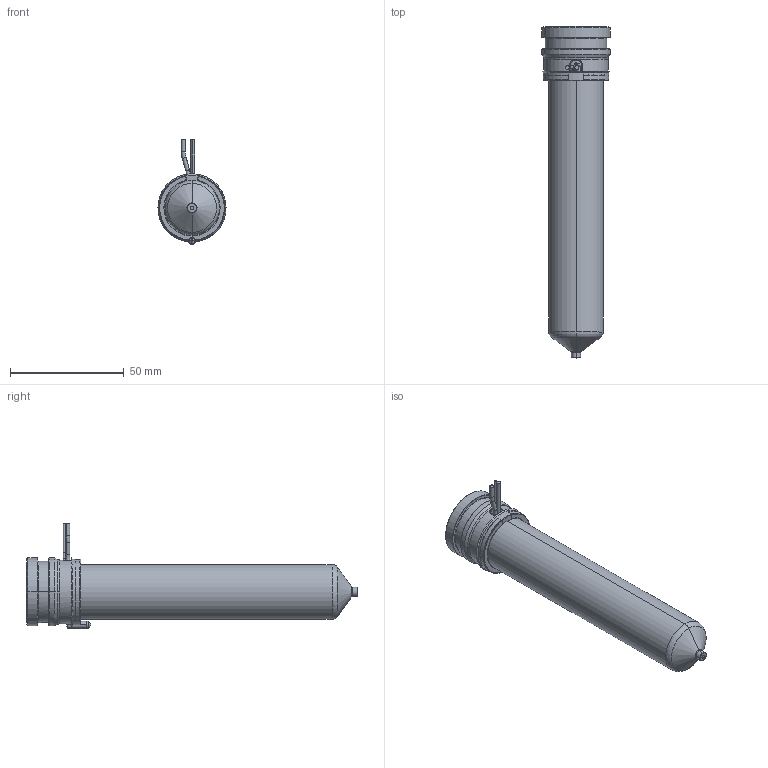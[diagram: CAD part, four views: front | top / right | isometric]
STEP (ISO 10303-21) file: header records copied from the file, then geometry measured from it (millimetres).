
FILE_DESCRIPTION((''),'2;1');
FILE_NAME('MPN-10-29-VP4-126-A','2026-02-05T12:42:55',('UPTIO'),('Thermoplay S.p.A.'),'CREO PARAMETRIC BY PTC INC, 2023494','CREO PARAMETRIC BY PTC INC, 2023494','');
FILE_SCHEMA(('CONFIG_CONTROL_DESIGN','SHAPE_APPEARANCE_LAYERS_GROUPS'));
Length unit declared in the file: millimetre
Products named in the file (1): MPN-10-29-VP4-126-A
Bounding box: 30 x 146.1 x 46 mm (x, y, z)
Volume: 45930.5 mm3; surface area: 46359.5 mm2
Topology: 2 solids, 3 shells, 580 faces, 1543 edges, 961 vertices
Faces by surface type: cylinder 180, plane 153, bspline 98, torus 70, cone 68, sphere 7, extrusion 4
Entity records: 29437 total; most frequent: CARTESIAN_POINT 12523, ORIENTED_EDGE 3074, DIRECTION 2691, EDGE_CURVE 1537, AXIS2_PLACEMENT_3D 1063, VERTEX_POINT 961, EDGE_LOOP 608, CIRCLE 584
